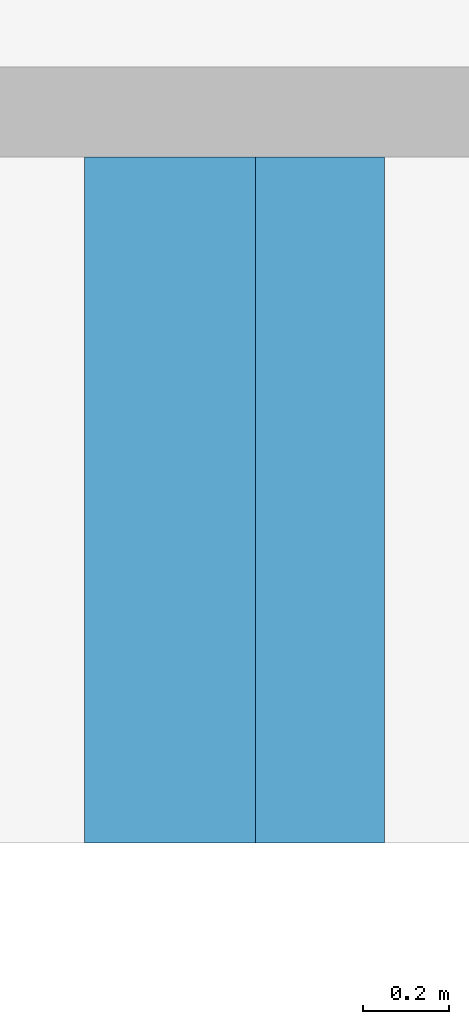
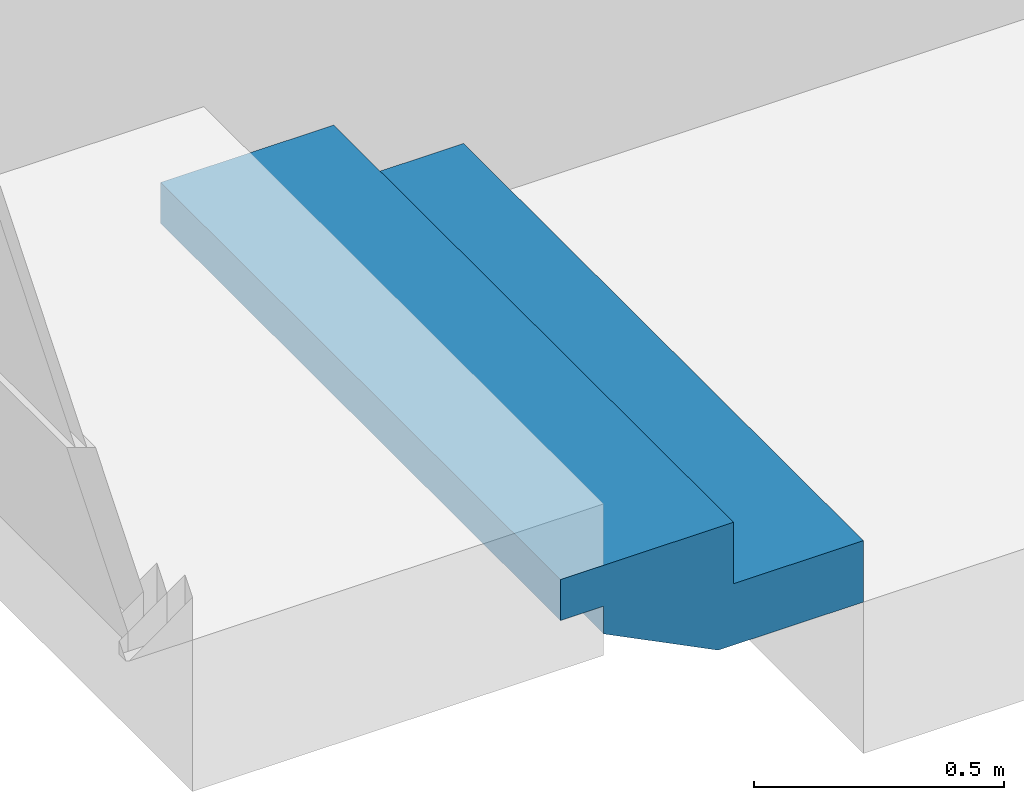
# One storey, part 7 of 15: 1 stair flight, 1 element without a shape of its own.
"""IFC2X3 building model written with IfcOpenShell, lengths in millimetres."""

from ifc_helpers import new_model, entity, si_unit, converted_unit, derived_unit, direction, frame, origin, place, context, subcontext, project, spatial, faceted_brep, element, aggregate, save


model = new_model("IFC2X3")

# Units and contexts
model_context = context("Model", 3, precision=0.01, world=origin(), true_north=direction((6.12303176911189e-17, 1.0)))
body_context = subcontext(model_context, "Body", "Model", "MODEL_VIEW")
ifc_project = project(units=[si_unit("LENGTHUNIT", "METRE", prefix="MILLI"), si_unit("AREAUNIT", "SQUARE_METRE"), si_unit("VOLUMEUNIT", "CUBIC_METRE"), converted_unit("PLANEANGLEUNIT", "DEGREE", entity("IfcRatioMeasure", 0.0174532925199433), si_unit("PLANEANGLEUNIT", "RADIAN"), dimensions=[0, 0, 0, 0, 0, 0, 0]), si_unit("MASSUNIT", "GRAM", prefix="KILO"), derived_unit("MASSDENSITYUNIT", [(si_unit("MASSUNIT", "GRAM", prefix="KILO"), 1), (si_unit("LENGTHUNIT", "METRE"), -3)]), si_unit("TIMEUNIT", "SECOND"), si_unit("FREQUENCYUNIT", "HERTZ"), si_unit("THERMODYNAMICTEMPERATUREUNIT", "DEGREE_CELSIUS"), derived_unit("THERMALTRANSMITTANCEUNIT", [(si_unit("MASSUNIT", "GRAM", prefix="KILO"), 1), (si_unit("THERMODYNAMICTEMPERATUREUNIT", "KELVIN"), -1), (si_unit("TIMEUNIT", "SECOND"), -3)]), derived_unit("VOLUMETRICFLOWRATEUNIT", [(si_unit("LENGTHUNIT", "METRE"), 3), (si_unit("TIMEUNIT", "SECOND"), -1)]), si_unit("ELECTRICCURRENTUNIT", "AMPERE"), si_unit("ELECTRICVOLTAGEUNIT", "VOLT"), si_unit("POWERUNIT", "WATT"), si_unit("FORCEUNIT", "NEWTON", prefix="KILO"), si_unit("ILLUMINANCEUNIT", "LUX"), si_unit("LUMINOUSFLUXUNIT", "LUMEN"), si_unit("LUMINOUSINTENSITYUNIT", "CANDELA"), derived_unit("USERDEFINED", [(si_unit("MASSUNIT", "GRAM", prefix="KILO"), -1), (si_unit("LENGTHUNIT", "METRE"), -2), (si_unit("TIMEUNIT", "SECOND"), 3), (si_unit("LUMINOUSFLUXUNIT", "LUMEN"), 1)]), derived_unit("LINEARVELOCITYUNIT", [(si_unit("LENGTHUNIT", "METRE"), 1), (si_unit("TIMEUNIT", "SECOND"), -1)]), si_unit("PRESSUREUNIT", "PASCAL"), derived_unit("USERDEFINED", [(si_unit("LENGTHUNIT", "METRE"), -2), (si_unit("MASSUNIT", "GRAM", prefix="KILO"), 1), (si_unit("TIMEUNIT", "SECOND"), -2)])], contexts=[model_context])

# Site, building, storey
site_placement = place(None, frame((-151.875543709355, 2715.0, 0.0)))
site = spatial("IfcSite", under=ifc_project, at=site_placement, Name="Surface", CompositionType="ELEMENT")
building_placement = place(site_placement, origin())
building = spatial("IfcBuilding", under=site, at=building_placement, CompositionType="ELEMENT")
storey_placement = place(building_placement, frame((0.0, 0.0, -135.0)))
storey = spatial("IfcBuildingStorey", under=building, at=storey_placement, Name="uus 1 korrus", CompositionType="ELEMENT", Elevation=-134.99999999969)

# Stair, stair flight
stair_placement = place(storey_placement, origin())
stair = element("IfcStair", 1, at=stair_placement, inside=storey, Name="Precast Stair:Stair", ObjectType="Precast Stair:Uus betoonist sisestrepp 2", ShapeType="NOTDEFINED")
stair_flight_placement = place(stair_placement, frame((32801.6093457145, 13210.0, 0.0)))
stair_flight = element("IfcStairFlight", 2, at=stair_flight_placement, Name="Precast Stair:Stair:898408 Run 1", ObjectType="Precast Stair:Uus betoonist sisestrepp 2", NumberOfRiser=2, NumberOfTreads=2, RiserHeight=0.492125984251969, TreadLength=0.984251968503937, context=body_context, shape_type="Brep", body=[
    faceted_brep([(400.0, 0.0, 150.0), (700.0, 0.0, 150.0), (700.0, 1600.0, 150.0), (400.0, 1600.0, 150.0), (400.0, 0.0, 0.0), (700.0, 0.0, 0.0), (700.0, 1600.0, 0.0), (400.0, 1600.0, 0.0), (400.0, 0.0, 300.0), (400.0, 1600.0, 300.0), (0.0, 1600.0, 300.0), (0.0, 0.0, 300.0), (0.0, 0.0, 200.0), (100.0, 0.0, 200.0), (100.0, 0.0, 132.294901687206), (364.589803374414, 0.0, 0.0), (364.589803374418, 1600.0, 0.0), (100.0, 1600.0, 132.29490168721), (100.0, 1600.0, 200.0), (0.0, 1600.0, 200.0)], [[[0, 1, 2, 3]], [[1, 0, 4, 5]], [[2, 1, 5, 6]], [[3, 2, 6, 7]], [[8, 9, 10, 11]], [[4, 0, 8, 11, 12, 13, 14, 15]], [[0, 3, 9, 8]], [[3, 7, 16, 17, 18, 19, 10, 9]], [[17, 14, 13, 18]], [[5, 4, 15, 16, 7, 6]], [[16, 15, 14, 17]], [[19, 18, 13, 12]], [[19, 12, 11, 10]]]),
])
aggregate(stair, [stair_flight])

save(model, "model.ifc")
